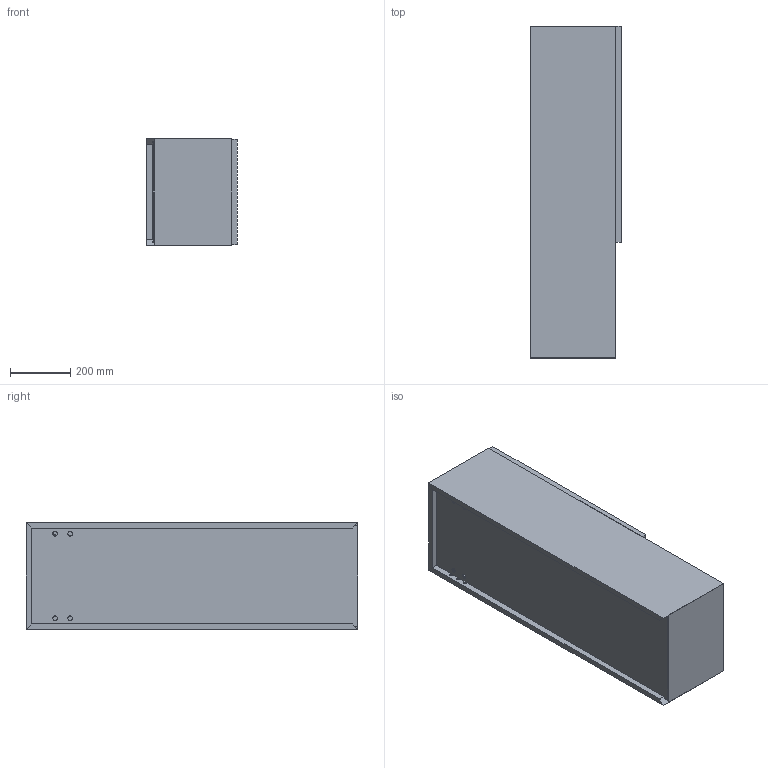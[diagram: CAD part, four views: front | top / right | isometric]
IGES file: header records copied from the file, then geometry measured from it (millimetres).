
Global section: file name: 3D Dosyası,; native system: Autodesk Inventor 2024; preprocessor: unknown; author: pc19; date: 20240629.113838; units: millimetre
Bounding box: 300 x 1100 x 354 mm (x, y, z)
Volume: 28043097.2 mm3; surface area: 4359724.8 mm2
Topology: 13 solids, 13 shells, 248 faces, 638 edges, 446 vertices
Faces by surface type: bspline 248
